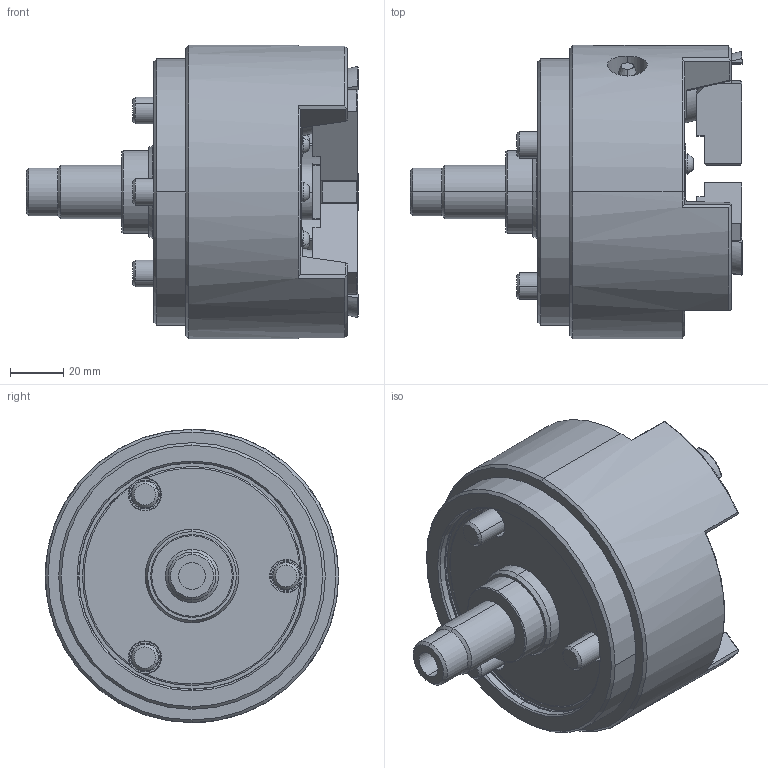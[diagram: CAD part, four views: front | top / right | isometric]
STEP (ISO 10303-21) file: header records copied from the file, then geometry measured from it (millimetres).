
FILE_DESCRIPTION (( 'STEP AP214' ), '1' );
FILE_NAME ('PU204_CL.STEP', '2019-10-18T07:22:00', ( '' ), ( '' ), 'SwSTEP 2.0', 'SolidWorks 2017', '' );
FILE_SCHEMA (( 'AUTOMOTIVE_DESIGN' ));
Length unit declared in the file: millimetre
Products named in the file (4): 結合; 0030106016; 61P443069; PU204_CL
Assembly tree (7 placements, depth 2):
  PU204_CL
    61P443069  x3
    0030106016  x3
    結合
Bounding box: 124.5 x 110 x 110 mm (x, y, z)
Volume: 539669 mm3; surface area: 81997.4 mm2
Topology: 7 solids, 8 shells, 962 faces, 2440 edges, 1548 vertices
Faces by surface type: plane 491, cone 167, cylinder 149, bspline 124, torus 31
Entity records: 31244 total; most frequent: CARTESIAN_POINT 11167, ORIENTED_EDGE 4404, DIRECTION 3682, EDGE_CURVE 2202, VERTEX_POINT 1414, AXIS2_PLACEMENT_3D 1247, VECTOR 1188, LINE 1188
